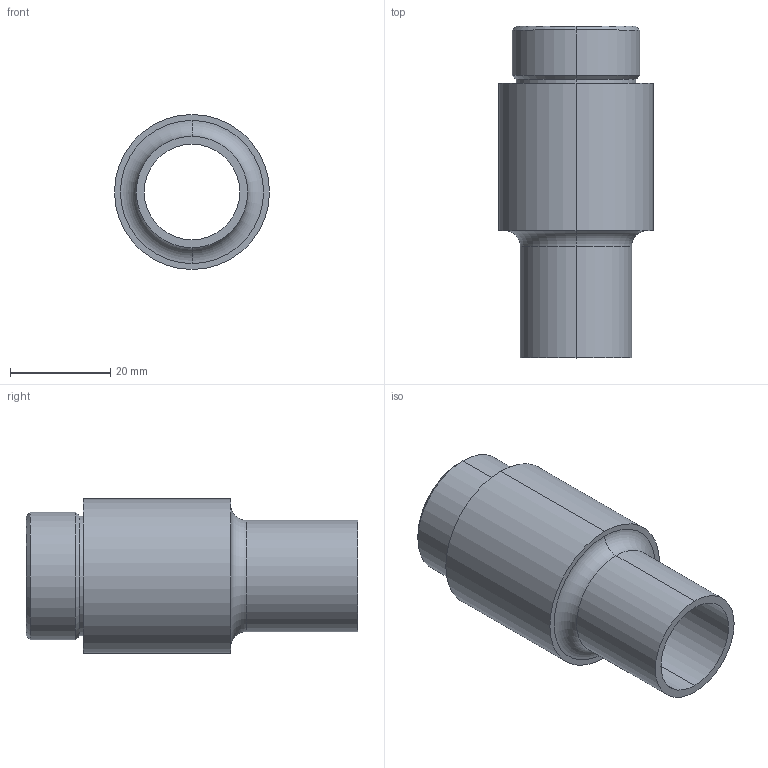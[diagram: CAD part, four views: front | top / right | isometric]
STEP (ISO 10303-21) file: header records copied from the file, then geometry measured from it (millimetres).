
FILE_DESCRIPTION (( 'STEP AP214' ), '1' );
FILE_NAME ('BTA-19-CM-QBT.STEP', '2019-02-11T21:03:19', ( '' ), ( '' ), 'SwSTEP 2.0', 'SolidWorks 2018', '' );
FILE_SCHEMA (( 'AUTOMOTIVE_DESIGN' ));
Length unit declared in the file: inch
Products named in the file (1): BTA-19-CM-QBT
Bounding box: 30.94 x 66.19 x 30.94 mm (x, y, z)
Volume: 18914 mm3; surface area: 10386.4 mm2
Topology: 1 solids, 1 shells, 20 faces, 40 edges, 24 vertices
Faces by surface type: cylinder 10, cone 4, plane 4, torus 2
Entity records: 596 total; most frequent: DIRECTION 108, CARTESIAN_POINT 85, ORIENTED_EDGE 80, AXIS2_PLACEMENT_3D 47, EDGE_CURVE 40, CIRCLE 26, VERTEX_POINT 24, EDGE_LOOP 24
